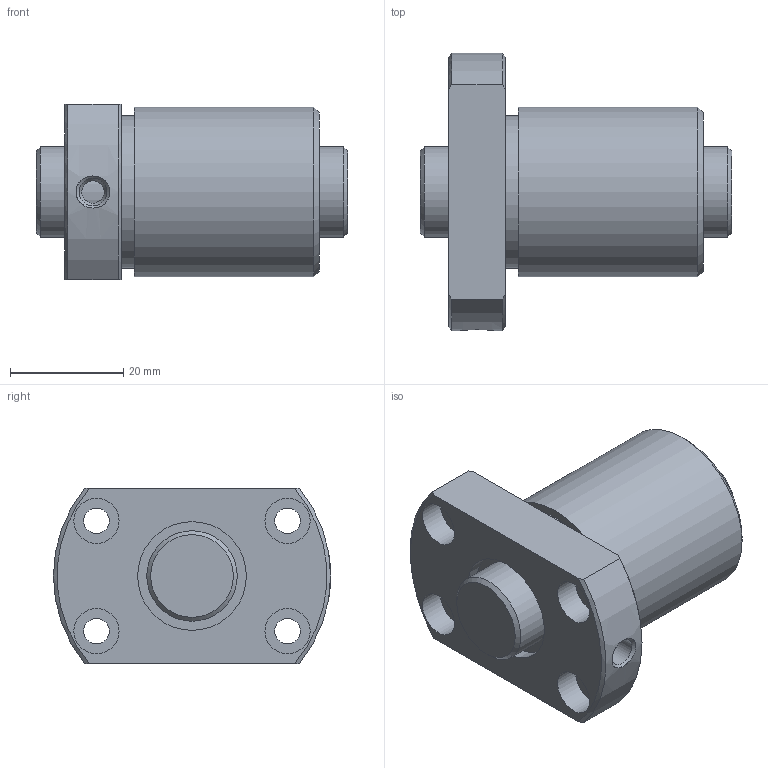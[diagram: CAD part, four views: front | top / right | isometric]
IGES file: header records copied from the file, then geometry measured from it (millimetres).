
Start section: Data from Parasolid IGES Translator 26.0.171, Copyright(c) 2006 Siemens PLM Software. All Rights Reserved.
Global section: file name: DK1605-3RRG1+55LC0_000.igs; native system: By Siemens PLM Incorporated; preprocessor: XPlus GENERIC/IGES 26.0.171; author: Noname; organization: Noname; date: 20250113.090730; units: millimetre
Bounding box: 55 x 49 x 31 mm (x, y, z)
Surface area: 13552.5 mm2 (no closed solid volume)
Topology: 0 solids, 0 shells, 41 faces, 166 edges, 133 vertices
Faces by surface type: revolution 27, extrusion 14
